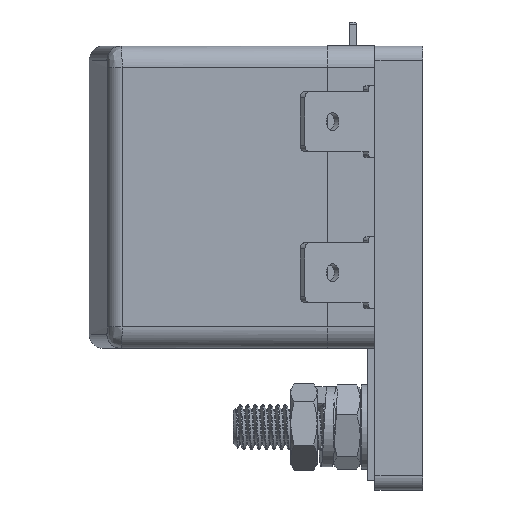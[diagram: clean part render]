
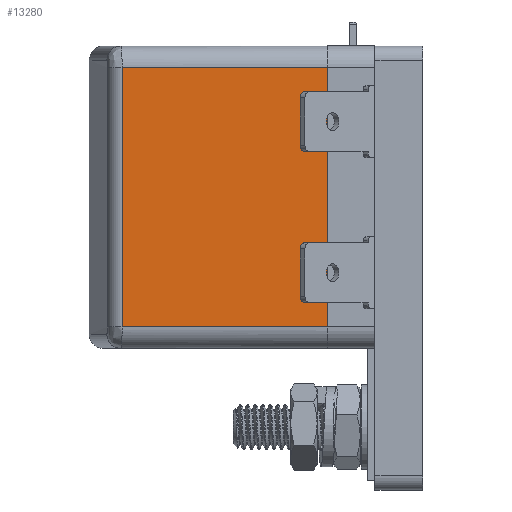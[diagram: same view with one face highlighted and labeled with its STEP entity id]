
A CAD part, left-side view. The second image highlights one B-rep face of the part: STEP entity #13280.
In plain terms, the highlighted planar face has unit normal (-1, 0, 0) as drawn and (1, 0, 0) by its records, which use the part's own axes.
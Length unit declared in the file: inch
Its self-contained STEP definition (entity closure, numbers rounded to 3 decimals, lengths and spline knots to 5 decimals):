
#1151=PLANE('',#14375);
#1876=FACE_OUTER_BOUND('',#2652,.T.);
#2652=EDGE_LOOP('',(#12426,#12427,#12428,#12429));
#3920=LINE('',#27415,#5200);
#3933=LINE('',#27527,#5213);
#3934=LINE('',#27531,#5214);
#3935=LINE('',#27532,#5215);
#5200=VECTOR('',#17433,0.3937);
#5213=VECTOR('',#17478,0.3937);
#5214=VECTOR('',#17483,0.3937);
#5215=VECTOR('',#17484,0.3937);
#6712=VERTEX_POINT('',#27399);
#6714=VERTEX_POINT('',#27413);
#6727=VERTEX_POINT('',#27526);
#6728=VERTEX_POINT('',#27530);
#8607=EDGE_CURVE('',#6714,#6712,#3920,.T.);
#8631=EDGE_CURVE('',#6727,#6712,#3933,.T.);
#8633=EDGE_CURVE('',#6728,#6714,#3934,.T.);
#8634=EDGE_CURVE('',#6727,#6728,#3935,.T.);
#12426=ORIENTED_EDGE('',*,*,#8607,.F.);
#12427=ORIENTED_EDGE('',*,*,#8633,.F.);
#12428=ORIENTED_EDGE('',*,*,#8634,.F.);
#12429=ORIENTED_EDGE('',*,*,#8631,.T.);
#13280=ADVANCED_FACE('',(#1876),#1151,.T.);
#14375=AXIS2_PLACEMENT_3D('',#27529,#17481,#17482);
#17433=DIRECTION('',(0.,1.,0.));
#17478=DIRECTION('',(0.,0.,1.));
#17481=DIRECTION('center_axis',(1.,0.,0.));
#17482=DIRECTION('ref_axis',(0.,1.,0.));
#17483=DIRECTION('',(0.,0.,1.));
#17484=DIRECTION('',(0.,-1.,0.));
#27399=CARTESIAN_POINT('',(1.25,0.54,0.85631));
#27413=CARTESIAN_POINT('',(1.25,-0.54,0.85631));
#27415=CARTESIAN_POINT('',(1.25,-0.63,0.85631));
#27526=CARTESIAN_POINT('',(1.25,0.54,0.));
#27527=CARTESIAN_POINT('',(1.25,0.54,0.));
#27529=CARTESIAN_POINT('Origin',(1.25,-0.54,0.));
#27530=CARTESIAN_POINT('',(1.25,-0.54,0.));
#27531=CARTESIAN_POINT('',(1.25,-0.54,0.));
#27532=CARTESIAN_POINT('',(1.25,0.54,0.));
